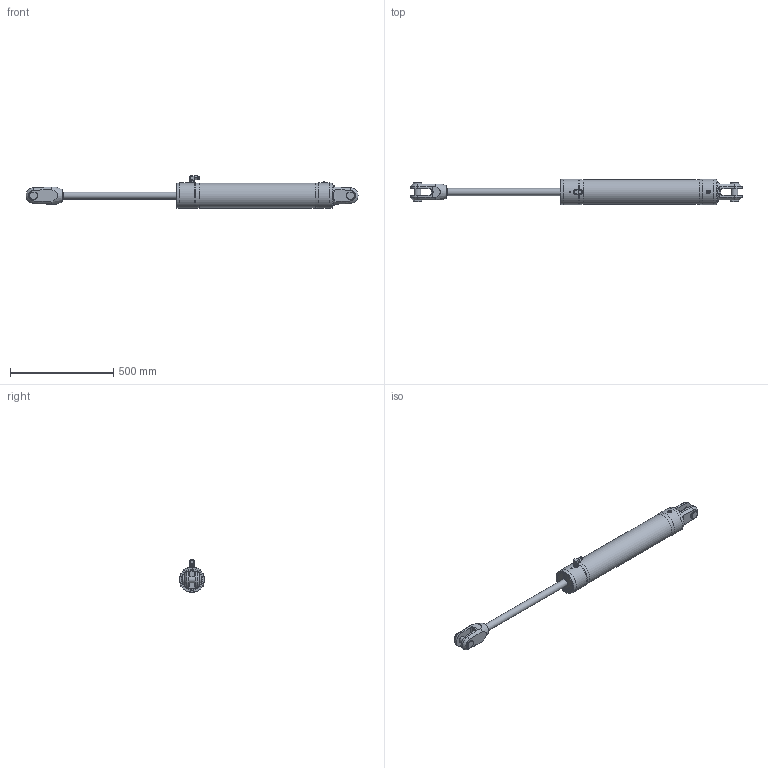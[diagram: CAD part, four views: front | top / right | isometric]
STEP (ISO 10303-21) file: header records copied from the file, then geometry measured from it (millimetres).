
FILE_DESCRIPTION(/* description */ (''),/* implementation_level */ '2;1');
FILE_NAME(/* name */ 'Q:\AA BRAND HYDRAULICS\HYDRAULICS FAMILY DIRECTORY\HYDRAULICS\CYLINDERS\RAMS\ALUMINIUM - STANDARD SINGLE ACTING (-0006 To -0260)\RSA-0076-S0550-NP-71\RSA-0076-S0550-NP-71 (Open).stp',/* time_stamp */ '2017-11-30T13:55:30+00:00',/* author */ ('Lorena'),/* organization */ (''),/* preprocessor_version */ 'ST-DEVELOPER v16.13',/* originating_system */ 'Autodesk Inventor 2018',/* authorisation */ '');
FILE_SCHEMA (('AUTOMOTIVE_DESIGN { 1 0 10303 214 3 1 1 }'));
Products named in the file (1): RSA-0076-S0550-NP-71 (Open)
Bounding box: 1610.3 x 123.6 x 159.15 mm (x, y, z)
Volume: 10426746.2 mm3; surface area: 500456.1 mm2
Topology: 1 solids, 4 shells, 1611 faces, 4274 edges, 2819 vertices
Faces by surface type: plane 892, bspline 573, cylinder 80, cone 57, torus 5, sphere 4
Full cylindrical faces by diameter (mm): 4 x1, 4.134 x1, 4.2 x2, 5 x1, 7 x1, 7.5 x1, 8.1 x1, 9 x1, 10 x4, 11 x2, 14 x1, 14.35 x1, 14.662 x1, 15 x1, 15.662 x1, 16.662 x2, 18 x2, 20 x2, 21.4 x2, 25 x1, 31.75 x2, 35 x1, 39.688 x2, 76 x1, 120.6 x1, 123.6 x4
Entity records: 56511 total; most frequent: CARTESIAN_POINT 19275, ORIENTED_EDGE 8304, DIRECTION 5279, EDGE_CURVE 4152, VERTEX_POINT 2782, LINE 2683, VECTOR 2683, EDGE_LOOP 1849
